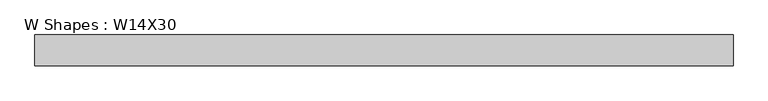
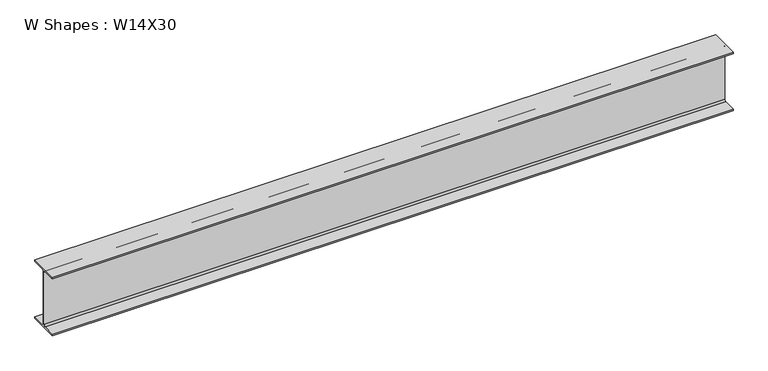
"""IFC4 building model written with IfcOpenShell, lengths in millimetres: beam geometry, W Shapes : W14X30."""

from ifc_helpers import new_model, si_unit, point, frame, frame_2d, origin, place, context, project, spatial, polyline, circle_curve, trimmed, segment, composite_curve, outline, extrude, source, transform, mapped, element, save


def w_shapes_w14x30_db228dd3(model_context):
    return source(origin(), model_context, "Body", "SweptSolid", [
        extrude(outline(composite_curve([segment(polyline([(85.471, -165.481), (85.471, -175.26), (-85.471, -175.26), (-85.471, -165.481), (-13.589, -165.481)]), True, "CONTINUOUS"), segment(trimmed(circle_curve(frame_2d((-13.589, -155.321)), 10.16), [point((-13.589, -165.481))], [point((-3.429, -155.321))], True, "CARTESIAN"), True, "CONTINUOUS"), segment(polyline([(-3.429, -155.321), (-3.429, 155.321)]), True, "CONTINUOUS"), segment(trimmed(circle_curve(frame_2d((-13.589, 155.321)), 10.16), [point((-3.429, 155.321))], [point((-13.589, 165.481))], True, "CARTESIAN"), True, "CONTINUOUS"), segment(polyline([(-13.589, 165.481), (-85.471, 165.481), (-85.471, 175.26), (85.471, 175.26), (85.471, 165.481), (13.589, 165.481)]), True, "CONTINUOUS"), segment(trimmed(circle_curve(frame_2d((13.589, 155.321)), 10.16), [point((13.589, 165.481))], [point((3.429, 155.321))], True, "CARTESIAN"), True, "CONTINUOUS"), segment(polyline([(3.429, 155.321), (3.429, -155.321)]), True, "CONTINUOUS"), segment(trimmed(circle_curve(frame_2d((13.589, -155.321)), 10.16), [point((3.429, -155.321))], [point((13.589, -165.481))], True, "CARTESIAN"), True, "CONTINUOUS"), segment(polyline([(13.589, -165.481), (85.471, -165.481)]), True, "CONTINUOUS")], self_intersect=False)), frame((-1989.2191694, 0.0, 0.0), z_axis=(1.0, 0.0, 0.0), x_axis=(0.0, 1.0, 0.0)), (0.0, 0.0, 1.0), 3852.5215494),
    ])


if __name__ == "__main__":
    model = new_model("IFC4")
    model_context = context("Model", 3, world=origin())
    ifc_project = project(units=[si_unit("LENGTHUNIT", "METRE", prefix="MILLI")], contexts=[model_context])
    site = spatial("IfcSite", under=ifc_project)
    building = spatial("IfcBuilding", under=site)
    placement = place(None, origin())
    w_shapes_w14x30_shape = w_shapes_w14x30_db228dd3(model_context)
    element("IfcBeam", 1, ObjectType="W Shapes : W14X30", at=placement, inside=building, context=model_context, shape_type="MappedRepresentation", body=[
        mapped(w_shapes_w14x30_shape, transform((0.0, 0.0, 0.0), x_axis=(1.0, 0.0, 0.0), y_axis=(0.0, 1.0, 0.0), z_axis=(0.0, 0.0, 1.0))),
    ])
    save(model, "model.ifc")
